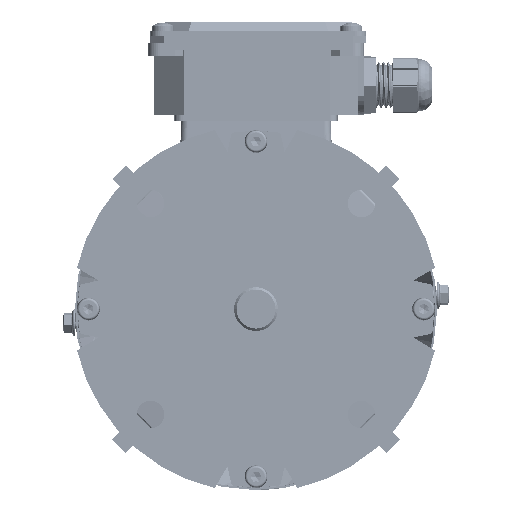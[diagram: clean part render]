
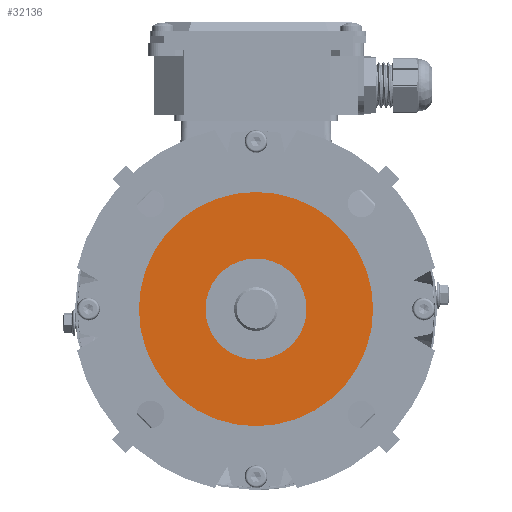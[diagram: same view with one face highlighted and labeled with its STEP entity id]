
A CAD part, front view. The second image highlights one B-rep face of the part: STEP entity #32136.
In plain terms, the highlighted planar face has unit normal (0, -1, 0).
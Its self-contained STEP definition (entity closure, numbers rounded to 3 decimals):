
#1468 = CARTESIAN_POINT ( 'NONE',  ( 0., 5.5, 0. ) ) ;
#7022 = AXIS2_PLACEMENT_3D ( 'NONE', #115812, #52415, #126450 ) ;
#9255 = VERTEX_POINT ( 'NONE', #59424 ) ;
#12093 = DIRECTION ( 'NONE',  ( 0., 0., -1. ) ) ;
#15209 = CIRCLE ( 'NONE', #7022, 22. ) ;
#19410 = CIRCLE ( 'NONE', #57217, 51. ) ;
#21612 = CIRCLE ( 'NONE', #125227, 51. ) ;
#25527 = DIRECTION ( 'NONE',  ( 0., -1., 0. ) ) ;
#26324 = FACE_OUTER_BOUND ( 'NONE', #137127, .T. ) ;
#27421 = CARTESIAN_POINT ( 'NONE',  ( 51., 5.5, 0. ) ) ;
#32136 = ADVANCED_FACE ( 'NONE', ( #26324, #82627 ), #112097, .T. ) ;
#35835 = VERTEX_POINT ( 'NONE', #125964 ) ;
#45177 = AXIS2_PLACEMENT_3D ( 'NONE', #57517, #131538, #68170 ) ;
#46489 = ORIENTED_EDGE ( 'NONE', *, *, #117306, .F. ) ;
#49024 = ORIENTED_EDGE ( 'NONE', *, *, #54829, .T. ) ;
#52415 = DIRECTION ( 'NONE',  ( 0., -1., 0. ) ) ;
#54829 = EDGE_CURVE ( 'NONE', #9255, #35835, #19410, .T. ) ;
#57217 = AXIS2_PLACEMENT_3D ( 'NONE', #88949, #25527, #99594 ) ;
#57517 = CARTESIAN_POINT ( 'NONE',  ( 0., 5.5, 0. ) ) ;
#59403 = DIRECTION ( 'NONE',  ( 0., -1., 0. ) ) ;
#59424 = CARTESIAN_POINT ( 'NONE',  ( 0., 5.5, -51. ) ) ;
#60426 = ORIENTED_EDGE ( 'NONE', *, *, #67126, .T. ) ;
#61558 = CARTESIAN_POINT ( 'NONE',  ( 0., 5.5, 22. ) ) ;
#63244 = ORIENTED_EDGE ( 'NONE', *, *, #95469, .F. ) ;
#67126 = EDGE_CURVE ( 'NONE', #35835, #9255, #21612, .T. ) ;
#68170 = DIRECTION ( 'NONE',  ( 0., 0., -1. ) ) ;
#75271 = EDGE_LOOP ( 'NONE', ( #63244, #46489 ) ) ;
#75535 = DIRECTION ( 'NONE',  ( 0., -1., 0. ) ) ;
#82627 = FACE_BOUND ( 'NONE', #75271, .T. ) ;
#84125 = CARTESIAN_POINT ( 'NONE',  ( 0., 5.5, -22. ) ) ;
#88949 = CARTESIAN_POINT ( 'NONE',  ( 0., 5.5, 0. ) ) ;
#89155 = CIRCLE ( 'NONE', #45177, 22. ) ;
#91685 = AXIS2_PLACEMENT_3D ( 'NONE', #27421, #59403, #133413 ) ;
#95469 = EDGE_CURVE ( 'NONE', #112644, #118872, #89155, .T. ) ;
#99594 = DIRECTION ( 'NONE',  ( 0., 0., -1. ) ) ;
#112097 = PLANE ( 'NONE',  #91685 ) ;
#112644 = VERTEX_POINT ( 'NONE', #84125 ) ;
#115812 = CARTESIAN_POINT ( 'NONE',  ( 0., 5.5, 0. ) ) ;
#117306 = EDGE_CURVE ( 'NONE', #118872, #112644, #15209, .T. ) ;
#118872 = VERTEX_POINT ( 'NONE', #61558 ) ;
#125227 = AXIS2_PLACEMENT_3D ( 'NONE', #1468, #75535, #12093 ) ;
#125964 = CARTESIAN_POINT ( 'NONE',  ( 0., 5.5, 51. ) ) ;
#126450 = DIRECTION ( 'NONE',  ( 0., 0., -1. ) ) ;
#131538 = DIRECTION ( 'NONE',  ( 0., -1., 0. ) ) ;
#133413 = DIRECTION ( 'NONE',  ( 0., 0., -1. ) ) ;
#137127 = EDGE_LOOP ( 'NONE', ( #49024, #60426 ) ) ;
